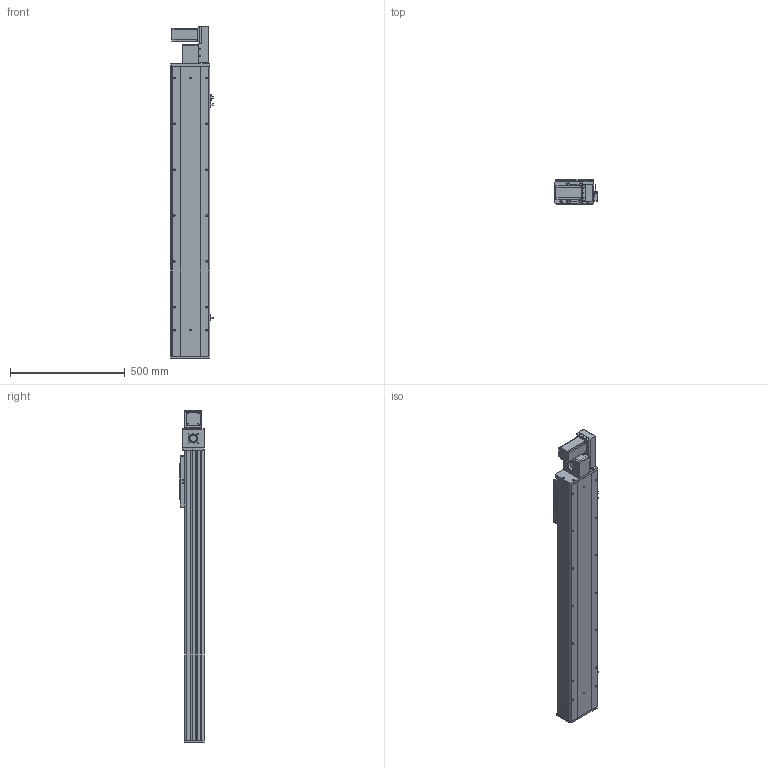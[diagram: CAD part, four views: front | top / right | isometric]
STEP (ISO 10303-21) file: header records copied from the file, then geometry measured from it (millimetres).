
FILE_DESCRIPTION (( 'STEP AP203' ), '1' );
FILE_NAME ('Y170CB-D105-S950-BR-P400W.STEP', '2020-02-19T09:06:57', ( '微软用户' ), ( '微软中国' ), 'SwSTEP 2.0', 'SolidWorks 2017', '' );
FILE_SCHEMA (( 'CONFIG_CONTROL_DESIGN' ));
Length unit declared in the file: millimetre
Products named in the file (17): 70B喘謫眊----; B-源倛裔啣; 17B-耜蚾蟀諉啣----; 0B-萇儂楊擘啣; san松下电机400不带刹车----; Y70俋欶BR----; 70CB-掛极-; --70CB --喘謫眊楊擘啣-; 70CB-耜裔啣-; 70C--詩湍揤踡え-; 70CB--耜裔; 70C-雄赽釱-奻-; 0C--雄赽釱俋欶-170; 70CB-詩湍--; Y100-135俋离換覜ん--; Y170CB-陔俋离換覜結え---; Y170CB-D105-S950-BR-P400W
Assembly tree (20 placements, depth 2):
  Y170CB-D105-S950-BR-P400W
    70B喘謫眊----
    B-源倛裔啣
    17B-耜蚾蟀諉啣----
    0B-萇儂楊擘啣
    san松下电机400不带刹车----
    Y70俋欶BR----
    70CB-掛极-
    --70CB --喘謫眊楊擘啣-
    70CB-耜裔啣-  x2
    70C--詩湍揤踡え-  x2
    70CB--耜裔
    70C-雄赽釱-奻-
    0C--雄赽釱俋欶-170
    70CB-詩湍--
    Y100-135俋离換覜ん--  x3
    Y170CB-陔俋离換覜結え---
Bounding box: 183.5 x 107 x 1447 mm (x, y, z)
Volume: 6335201.9 mm3; surface area: 2262126.8 mm2
Topology: 20 solids, 20 shells, 993 faces, 2657 edges, 1762 vertices
Faces by surface type: cylinder 507, plane 462, cone 24
Entity records: 31459 total; most frequent: CARTESIAN_POINT 5781, DIRECTION 5116, ORIENTED_EDGE 4796, EDGE_CURVE 2398, AXIS2_PLACEMENT_3D 1865, VERTEX_POINT 1592, LINE 1386, VECTOR 1386
